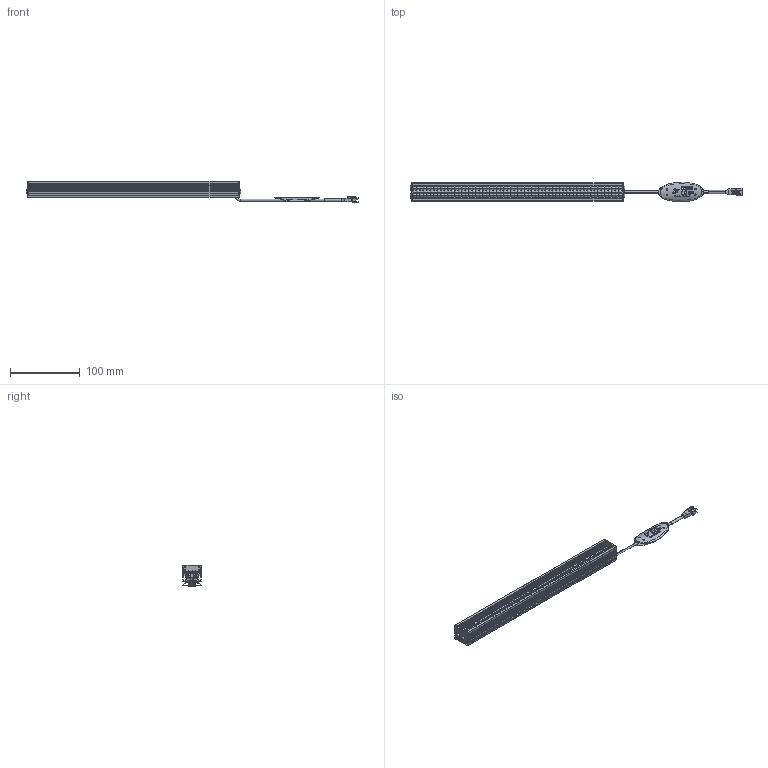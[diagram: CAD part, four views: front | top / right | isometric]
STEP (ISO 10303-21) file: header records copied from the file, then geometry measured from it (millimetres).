
FILE_DESCRIPTION(('STEP AP214'),'1');
FILE_NAME('VBA-30015_DRAWING_3D.step','2023-09-14T01:00:15',(' '),(' '),'Spatial InterOp 3D',' ',' ');
FILE_SCHEMA(('AUTOMOTIVE_DESIGN { 1 0 10303 214 1 1 1 1 }'));
Length unit declared in the file: millimetre
Products named in the file (7): BASE; SIDE PLATE; MXB8146; 3P; CABEL TAG (VS).stp; LED LENS
Assembly tree (15 placements, depth 2):
  (unnamed)
    BASE
    SIDE PLATE  x2
    MXB8146  x4
    3P
    CABEL TAG (VS).stp
    LED LENS  x6
Bounding box: 476 x 28 x 30.5 mm (x, y, z)
Volume: 91831.5 mm3; surface area: 96382.2 mm2
Topology: 16 solids, 16 shells, 1589 faces, 4874 edges, 3373 vertices
Faces by surface type: plane 709, cylinder 500, sphere 360, torus 14, bspline 6
Entity records: 37398 total; most frequent: CARTESIAN_POINT 8811, ORIENTED_EDGE 4924, DIRECTION 4444, EDGE_CURVE 2462, VERTEX_POINT 1760, AXIS2_PLACEMENT_3D 1559, LINE 1326, VECTOR 1326
